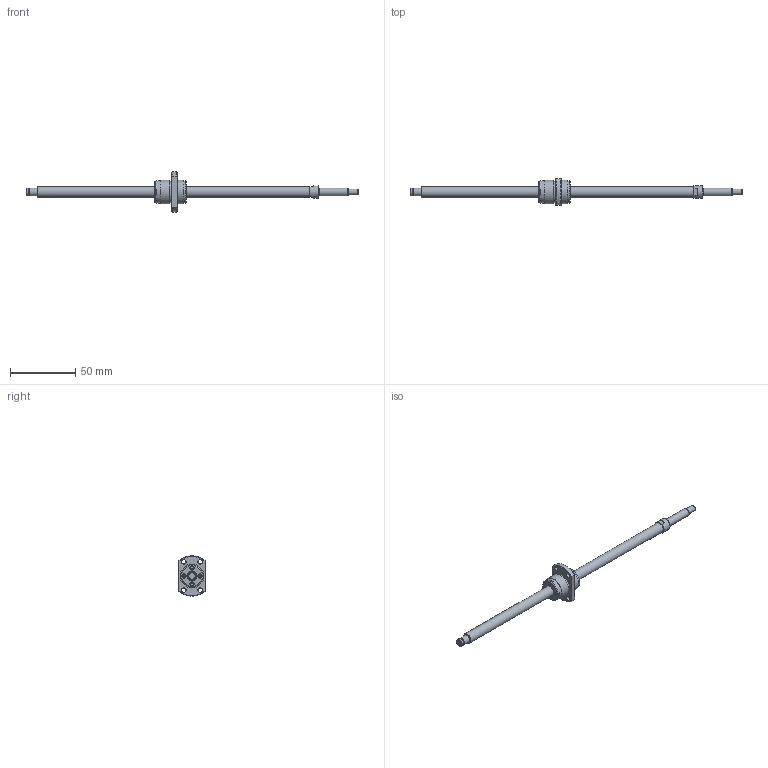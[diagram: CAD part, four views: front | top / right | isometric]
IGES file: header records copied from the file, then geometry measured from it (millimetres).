
Start section: Data from Parasolid IGES Translator 26.0.171, Copyright(c) 2006 Siemens PLM Software. All Rights Reserved.
Global section: file name: BNK0810-3GT+255LC5Y(114).igs; native system: By Siemens PLM Incorporated; preprocessor: XPlus GENERIC/IGES 26.0.171; author: Noname; organization: Noname; date: 20240709.085635; units: millimetre
Bounding box: 255 x 20 x 31 mm (x, y, z)
Surface area: 9649.8 mm2 (no closed solid volume)
Topology: 0 solids, 0 shells, 116 faces, 542 edges, 494 vertices
Faces by surface type: extrusion 66, revolution 50
